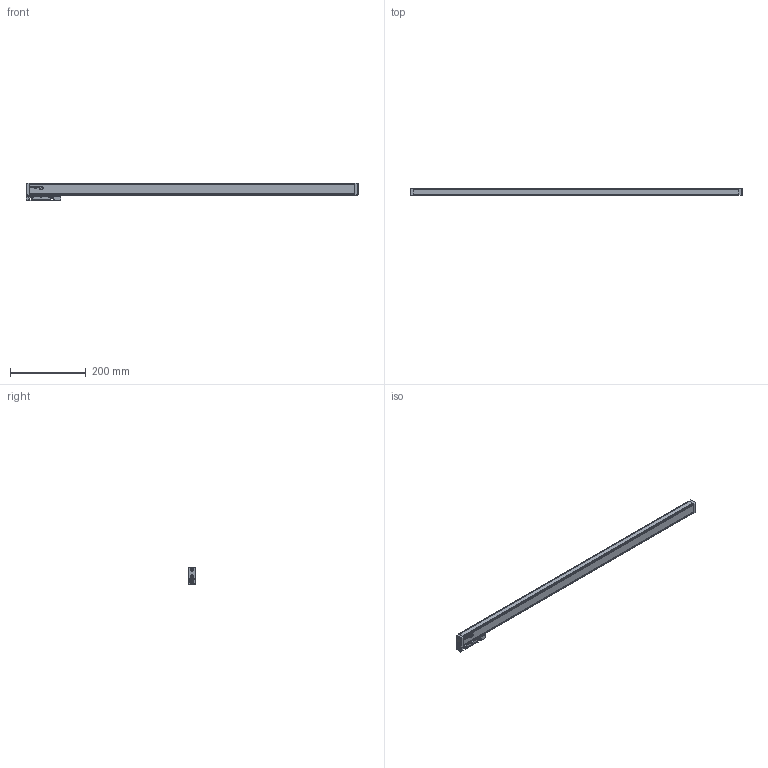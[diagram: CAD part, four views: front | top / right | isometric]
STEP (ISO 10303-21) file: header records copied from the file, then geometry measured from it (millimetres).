
FILE_DESCRIPTION(('Creo Elements/Direct Modeling STEP Export'),'2;1');
FILE_NAME('REGLA_SV3-770.stp','2020-10-30T13:09:04',(''),(''),'Creo Elements/Direct Modeling STEP processor for AP214 (Solid Model)','Creo Elements/Direct Modeling 19.0G 27-Nov-2017 (C) Parametric Technology GmbH','');
FILE_SCHEMA(('AUTOMOTIVE_DESIGN { 1 0 10303 214 1 1 1 1 }'));
Length unit declared in the file: millimetre
Products named in the file (4): PERFIL_REGLA_SV3-770; CABEZA_RANURADA_REGLA_S3
Assembly tree (2 placements, depth 2):
  PERFIL_REGLA_SV3-770
    PERFIL_REGLA_SV3-770
  CABEZA_RANURADA_REGLA_S3
    CABEZA_RANURADA_REGLA_S3
Bounding box: 875 x 18.3 x 46.2 mm (x, y, z)
Volume: 490435.5 mm3; surface area: 118907.4 mm2
Topology: 2 solids, 25 shells, 1508 faces, 4919 edges, 3517 vertices
Faces by surface type: plane 988, cylinder 369, cone 134, bspline 9, torus 8
Entity records: 63844 total; most frequent: CARTESIAN_POINT 12641, ORIENTED_EDGE 9818, DIRECTION 7788, EDGE_CURVE 4907, VECTOR 3690, LINE 3690, VERTEX_POINT 3517, AXIS2_PLACEMENT_3D 2049
